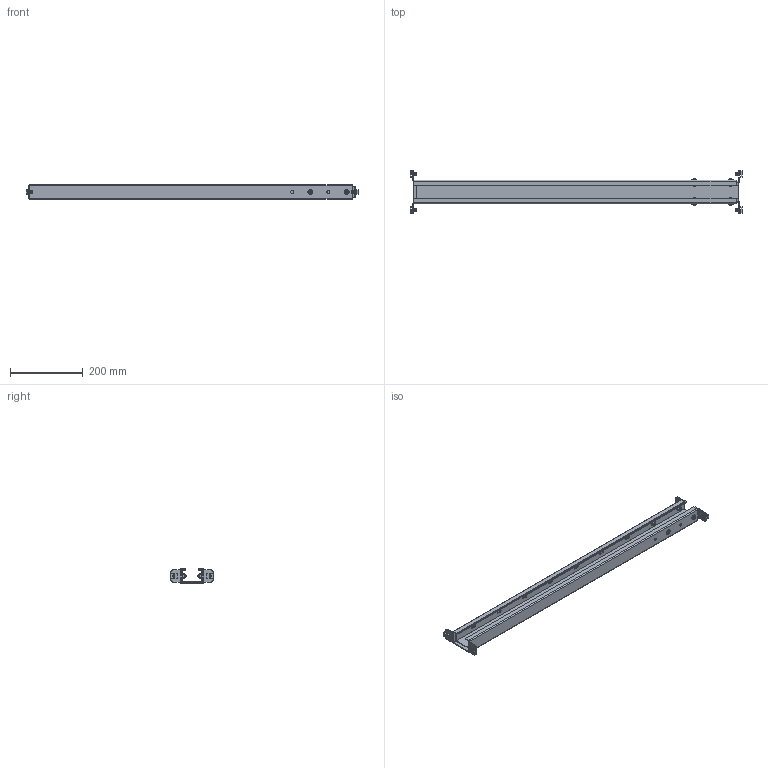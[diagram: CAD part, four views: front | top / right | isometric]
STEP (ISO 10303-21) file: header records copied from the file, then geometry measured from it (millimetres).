
FILE_DESCRIPTION(/* description */ ('Unknown'),/* implementation_level */ '2;1');
FILE_NAME(/* name */ '127.00637_01-900mm',/* time_stamp */ '2025-03-27T11:17:40+01:00',/* author */ ('Unknown'),/* organization */ ('Unknown'),/* preprocessor_version */ 'ST-DEVELOPER v20',/* originating_system */ 'Solid Edge',/* authorisation */ 'Unknown');
FILE_SCHEMA (('AUTOMOTIVE_DESIGN {1 0 10303 214 3 1 1}'));
Length unit declared in the file: millimetre
Products named in the file (9): 127.00637; 096611~1; 096612~1; Sechskantmutter M6 DIN 934; Scheibe Ø6,4 DIN 125; 142.00081; 142.00018; 126.00495; Halbrundkopfschraube mit Innensechskant und Bund M6x16 ISO 7380-2
Assembly tree (26 placements, depth 2):
  127.00637
    096611~1
    096612~1
    Sechskantmutter M6 DIN 934  x4
    Scheibe Ø6,4 DIN 125  x4
    142.00081  x4
    142.00018  x4
    126.00495  x4
    Halbrundkopfschraube mit Innensechskant und Bund M6x16 ISO 7380-2  x4
Bounding box: 913.8 x 120 x 40 mm (x, y, z)
Volume: 677424.3 mm3; surface area: 558094.2 mm2
Topology: 26 solids, 26 shells, 568 faces, 1426 edges, 930 vertices
Faces by surface type: plane 268, cylinder 192, torus 72, bspline 24, cone 8, sphere 4
Full cylindrical faces by diameter (mm): 4.917 x4, 6 x12, 6.4 x8, 8.5 x12, 10 x4, 11 x4, 12 x4, 13.6 x4
Entity records: 9317 total; most frequent: CARTESIAN_POINT 2084, DIRECTION 1396, ORIENTED_EDGE 1368, EDGE_CURVE 684, AXIS2_PLACEMENT_3D 491, VERTEX_POINT 468, LINE 414, VECTOR 414
